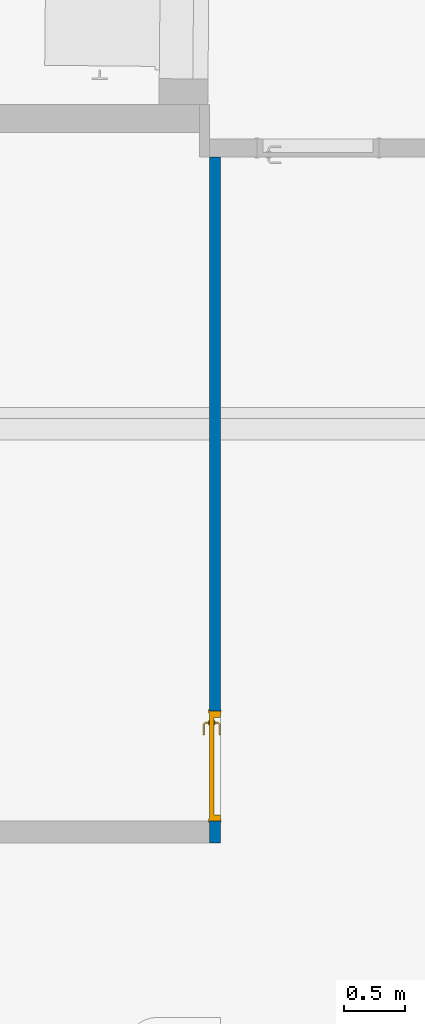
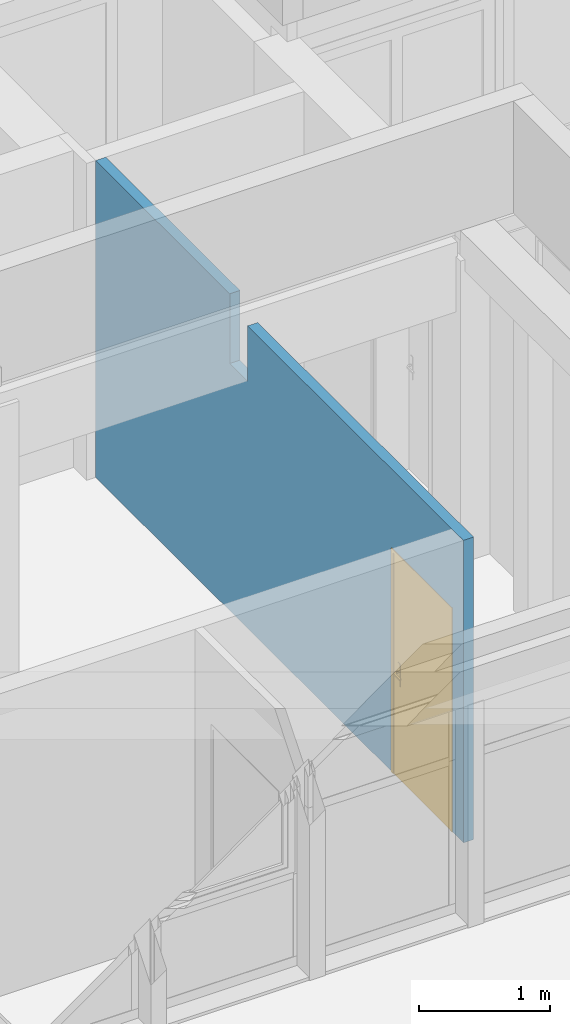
# One storey, part 28 of 49: 1 door, 1 wall, 1 opening.
"""IFC4 building model written with IfcOpenShell, lengths in metres."""

from ifc_helpers import new_model, entity, si_unit, converted_unit, derived_unit, direction, frame, origin, place, context, subcontext, project, spatial, indexed_curve, outline, extrude, polygons, source, transform, mapped, material, material_list, layer, layer_set, constituent, constituent_set, type_object, type_shapes, element, fill, save


model = new_model("IFC4")

# Units and contexts
model_context = context("Model", 3, precision=1e-05, world=origin(), true_north=direction((6.12303176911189e-17, 1.0)))
body_context = subcontext(model_context, "Body", "Model", "MODEL_VIEW")
ifc_project = project(units=[si_unit("LENGTHUNIT", "METRE"), si_unit("AREAUNIT", "SQUARE_METRE"), si_unit("VOLUMEUNIT", "CUBIC_METRE"), converted_unit("PLANEANGLEUNIT", "DEGREE", entity("IfcRatioMeasure", 0.0174532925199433), si_unit("PLANEANGLEUNIT", "RADIAN"), dimensions=[0, 0, 0, 0, 0, 0, 0]), si_unit("MASSUNIT", "GRAM", prefix="KILO"), derived_unit("MASSDENSITYUNIT", [(si_unit("MASSUNIT", "GRAM", prefix="KILO"), 1), (si_unit("LENGTHUNIT", "METRE"), -3)]), derived_unit("MOMENTOFINERTIAUNIT", [(si_unit("LENGTHUNIT", "METRE"), 4)]), si_unit("TIMEUNIT", "SECOND"), si_unit("FREQUENCYUNIT", "HERTZ"), si_unit("THERMODYNAMICTEMPERATUREUNIT", "DEGREE_CELSIUS"), derived_unit("THERMALTRANSMITTANCEUNIT", [(si_unit("MASSUNIT", "GRAM", prefix="KILO"), 1), (si_unit("THERMODYNAMICTEMPERATUREUNIT", "KELVIN"), -1), (si_unit("TIMEUNIT", "SECOND"), -3)]), derived_unit("VOLUMETRICFLOWRATEUNIT", [(si_unit("LENGTHUNIT", "METRE"), 3), (si_unit("TIMEUNIT", "SECOND"), -1)]), si_unit("ELECTRICCURRENTUNIT", "AMPERE"), si_unit("ELECTRICVOLTAGEUNIT", "VOLT"), si_unit("POWERUNIT", "WATT"), si_unit("FORCEUNIT", "NEWTON", prefix="KILO"), si_unit("ILLUMINANCEUNIT", "LUX"), si_unit("LUMINOUSFLUXUNIT", "LUMEN"), si_unit("LUMINOUSINTENSITYUNIT", "CANDELA"), derived_unit("USERDEFINED", [(si_unit("MASSUNIT", "GRAM", prefix="KILO"), -1), (si_unit("LENGTHUNIT", "METRE"), -2), (si_unit("TIMEUNIT", "SECOND"), 3), (si_unit("LUMINOUSFLUXUNIT", "LUMEN"), 1)]), derived_unit("LINEARVELOCITYUNIT", [(si_unit("LENGTHUNIT", "METRE"), 1), (si_unit("TIMEUNIT", "SECOND"), -1)]), si_unit("PRESSUREUNIT", "PASCAL"), derived_unit("USERDEFINED", [(si_unit("LENGTHUNIT", "METRE"), -2), (si_unit("MASSUNIT", "GRAM", prefix="KILO"), 1), (si_unit("TIMEUNIT", "SECOND"), -2)]), derived_unit("LINEARFORCEUNIT", [(si_unit("MASSUNIT", "GRAM", prefix="KILO"), 1), (si_unit("LENGTHUNIT", "METRE"), 1), (si_unit("TIMEUNIT", "SECOND"), -2), (si_unit("LENGTHUNIT", "METRE"), -1)]), derived_unit("PLANARFORCEUNIT", [(si_unit("MASSUNIT", "GRAM", prefix="KILO"), 1), (si_unit("LENGTHUNIT", "METRE"), 1), (si_unit("TIMEUNIT", "SECOND"), -2), (si_unit("LENGTHUNIT", "METRE"), -2)])], contexts=[model_context])

# Site, building, storey
site_placement = place(None, origin())
site = spatial("IfcSite", under=ifc_project, at=site_placement, Name="Default", CompositionType="ELEMENT")
building_placement = place(site_placement, origin())
building = spatial("IfcBuilding", under=site, at=building_placement, Name="HOTEL CONSULAIRE BOULOGNE SUR MER", CompositionType="ELEMENT")
storey_placement = place(building_placement, frame((0.0, 0.0, 6.81974152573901)))
storey = spatial("IfcBuildingStorey", under=building, at=storey_placement, Name="Niveau 2", CompositionType="ELEMENT", Elevation=6.81974152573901)

# Wall, opening, door
ifc_material_1 = material(Name="Mur par défaut", Category="Divers")
ifc_layer = layer(ifc_material_1, 0.09, Name="Mur par défaut", Category="Divers")
ifc_layer_set = layer_set([ifc_layer], Name="Mur de base:Générique - Int. 90")
wall_type = type_object("IfcWallType", Name="Mur de base:Générique - Int. 90", PredefinedType="NOTDEFINED", material=ifc_layer_set)
wall_placement = place(storey_placement, frame((9.54595857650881, -18.0248875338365, 0.0), z_axis=(0.0, 0.0, 1.0), x_axis=(0.0, 1.0, 0.0)))
wall = element("IfcWall", 1, at=wall_placement, inside=storey, type_object=wall_type, material=ifc_layer_set, Name="Mur de base:Générique - Int. 90", ObjectType="Mur de base:Générique - Int. 90", PredefinedType="NOTDEFINED", context=body_context, shape_type="Tessellation", body=[
    polygons([(0.180000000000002, -0.0450000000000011, 0.0), (0.0, -0.0450000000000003, 0.0), (0.0, 0.0449999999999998, 0.0), (0.180000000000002, 0.0450000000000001, 0.0), (0.180000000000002, -0.0450000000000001, 2.075), (1.08, -0.0450000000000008, 2.075), (1.08, -0.0450000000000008, 0.0), (5.62311021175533, -0.0450000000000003, 0.0), (5.62311021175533, -0.0450000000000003, 2.957), (3.57180060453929, -0.0450000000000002, 2.957), (3.57180060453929, -0.0450000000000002, 2.307), (3.30180060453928, -0.0450000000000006, 2.307), (3.30180060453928, -0.0450000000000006, 2.822), (0.0, -0.0450000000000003, 2.822), (0.180000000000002, 0.0450000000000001, 2.075), (0.0, 0.0449999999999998, 2.822), (3.30180060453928, 0.0449999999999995, 2.822), (3.30180060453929, 0.0449999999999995, 2.307), (3.57180060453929, 0.0449999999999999, 2.307), (3.57180060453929, 0.0449999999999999, 2.957), (5.62311021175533, 0.0449999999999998, 2.957), (5.62311021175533, 0.0449999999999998, 0.0), (1.08, 0.0449999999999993, 0.0), (1.08, 0.0449999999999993, 2.075)], [[[2, 3, 4, 1]], [[6, 5, 15, 24]], [[23, 22, 8, 7]], [[5, 6, 7, 8, 9, 10, 11, 12, 13, 14, 2, 1]], [[22, 23, 24, 15, 4, 3, 16, 17, 18, 19, 20, 21]], [[10, 9, 21, 20]], [[11, 19, 18, 12]], [[17, 16, 14, 13]], [[8, 22, 21, 9]], [[5, 1, 4, 15]], [[12, 18, 17, 13]], [[16, 3, 2, 14]], [[7, 6, 24, 23]], [[10, 20, 19, 11]]], closed=True),
])
opening_placement = place(wall_placement, frame((0.179999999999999, -0.0449999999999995, 0.0)))
opening = element("IfcOpeningElement", 2, at=opening_placement, cuts=wall, Name="Int. Simple:PP (0.83m x 2.04m):1", ObjectType="Opening", PredefinedType="OPENING", context=body_context, shape_type="SweptSolid", body=[
    extrude(outline(indexed_curve([(0.0, 1.08286712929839e-15), (2.075, 1.08286712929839e-15), (2.075, 0.9), (0.0, 0.9), (0.0, 1.08286712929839e-15)], self_intersect=False)), frame((0.0, 0.0, 0.0), z_axis=(0.0, 1.0, 0.0), x_axis=(0.0, 0.0, 1.0)), (0.0, 0.0, 1.0), 0.09),
])
ifc_material_2 = material(Name="Finition Peinture - Blanc satiné", Category="Peinture")
ifc_constituent_1 = constituent(ifc_material_2, Name="Finition Peinture - Blanc satiné", Category="Matériaux")
ifc_material_3 = material(Name="Bois - Panneau de porte", Category="Bois")
ifc_constituent_2 = constituent(ifc_material_3, Name="Bois - Panneau de porte", Category="Matériaux")
ifc_material_4 = material(Name="Bois - Cadre de porte", Category="Bois")
ifc_constituent_3 = constituent(ifc_material_4, Name="Bois - Cadre de porte", Category="Matériaux")
ifc_constituent_set = constituent_set(constituents=[ifc_constituent_1, ifc_constituent_2, ifc_constituent_3], Name="MaterialConstituentSet")
ifc_material_list = material_list([ifc_material_4, ifc_material_3, ifc_material_4, ifc_material_2])
door_type = type_object("IfcDoorType", Name="Int. Simple:PP (0.83m x 2.04m)", OperationType="NOTDEFINED", PredefinedType="DOOR", material=ifc_material_list)
shared_shape = source(origin(), body_context, "Body", "Tessellation", [
    polygons([(0.0750000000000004, -0.00500000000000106, 0.870000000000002), (0.0846472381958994, -0.00500000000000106, 0.866003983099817), (0.0950000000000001, -0.00500000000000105, 0.86464101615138), (0.105352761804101, -0.00500000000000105, 0.866003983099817), (0.115, -0.00500000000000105, 0.870000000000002), (0.114999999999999, -0.00500000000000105, 1.08), (0.1053527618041, -0.00500000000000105, 1.08399601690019), (0.094999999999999, -0.00500000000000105, 1.08535898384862), (0.0846472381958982, -0.00500000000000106, 1.08399601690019), (0.0749999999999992, -0.00500000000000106, 1.08), (0.0749999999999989, -1.06594733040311e-15, 0.870000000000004), (0.0749999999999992, -1.06594733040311e-15, 1.08), (0.0846472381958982, -1.06594733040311e-15, 1.08399601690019), (0.094999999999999, -1.05748743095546e-15, 1.08535898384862), (0.1053527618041, -1.05748743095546e-15, 1.08399601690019), (0.114999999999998, -1.04902753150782e-15, 1.08), (0.115, -1.04902753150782e-15, 0.870000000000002), (0.105352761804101, -1.05748743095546e-15, 0.866003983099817), (0.0950000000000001, -1.05748743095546e-15, 0.86464101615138), (0.0846472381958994, -1.06594733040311e-15, 0.866003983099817)], [[[4, 5, 6, 7, 8, 9, 10, 1, 2, 3]], [[15, 16, 17, 18, 19, 20, 11, 12, 13, 14]], [[11, 20, 2, 1]], [[2, 20, 19, 3]], [[19, 18, 4, 3]], [[18, 17, 5, 4]], [[6, 5, 17, 16]], [[16, 15, 7, 6]], [[7, 15, 14, 8]], [[14, 13, 9, 8]], [[13, 12, 10, 9]], [[1, 10, 12, 11]]], closed=True),
    polygons([(0.114999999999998, 0.0399999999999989, 1.08), (0.105352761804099, 0.0399999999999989, 1.08399601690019), (0.0949999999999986, 0.0399999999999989, 1.08535898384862), (0.084647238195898, 0.0399999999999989, 1.08399601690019), (0.0749999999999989, 0.0399999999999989, 1.08), (0.0750000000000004, 0.0399999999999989, 0.870000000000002), (0.0846472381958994, 0.0399999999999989, 0.866003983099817), (0.0950000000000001, 0.0399999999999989, 0.86464101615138), (0.105352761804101, 0.0399999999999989, 0.866003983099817), (0.115, 0.0399999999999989, 0.870000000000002), (0.114999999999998, 0.0449999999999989, 1.08), (0.115, 0.0449999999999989, 0.870000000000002), (0.105352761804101, 0.0449999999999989, 0.866003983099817), (0.0950000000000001, 0.0449999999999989, 0.86464101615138), (0.0846472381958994, 0.0449999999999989, 0.866003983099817), (0.0749999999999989, 0.0449999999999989, 0.870000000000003), (0.0749999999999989, 0.0449999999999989, 1.08), (0.084647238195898, 0.0449999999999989, 1.08399601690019), (0.0949999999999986, 0.0449999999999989, 1.08535898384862), (0.105352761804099, 0.0449999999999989, 1.08399601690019)], [[[9, 10, 1, 2, 3, 4, 5, 6, 7, 8]], [[20, 11, 12, 13, 14, 15, 16, 17, 18, 19]], [[11, 20, 2, 1]], [[2, 20, 19, 3]], [[19, 18, 4, 3]], [[18, 17, 5, 4]], [[6, 5, 17, 16]], [[16, 15, 7, 6]], [[7, 15, 14, 8]], [[14, 13, 9, 8]], [[13, 12, 10, 9]], [[1, 10, 12, 11]]], closed=True),
    polygons([(0.0889999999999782, -0.00500000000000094, 1.007), (0.0929747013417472, -0.00500000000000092, 1.00778044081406), (0.0970252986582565, -0.0050000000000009, 1.00778044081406), (0.101000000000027, -0.00500000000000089, 1.00699999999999), (0.101000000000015, -0.00500000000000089, 0.993000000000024), (0.0970252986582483, -0.0050000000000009, 0.992219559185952), (0.0929747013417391, -0.00500000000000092, 0.99221955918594), (0.0889999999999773, -0.00500000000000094, 0.992999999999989), (0.0889999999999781, -0.0326509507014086, 1.007), (0.092974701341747, -0.0310045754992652, 1.00778044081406), (0.0970252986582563, -0.0293267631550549, 1.00778044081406), (0.101000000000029, -0.0276803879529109, 1.007), (0.101000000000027, -0.0276803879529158, 0.993000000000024), (0.0970252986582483, -0.0293267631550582, 0.992219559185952), (0.0929747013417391, -0.0310045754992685, 0.99221955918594), (0.0889999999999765, -0.0326509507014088, 0.992999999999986), (0.107377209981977, -0.0510281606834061, 1.007), (0.10902358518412, -0.0470534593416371, 1.00778044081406), (0.110701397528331, -0.0430028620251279, 1.00778044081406), (0.112347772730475, -0.0390281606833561, 1.007), (0.112347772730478, -0.0390281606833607, 0.993000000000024), (0.110701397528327, -0.0430028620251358, 0.992219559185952), (0.109023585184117, -0.047053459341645, 0.99221955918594), (0.107377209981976, -0.0510281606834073, 0.992999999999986), (0.195018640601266, -0.0510281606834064, 1.00699999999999), (0.195018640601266, -0.0510281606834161, 0.992999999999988), (0.195018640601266, -0.0470534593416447, 0.99221955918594), (0.195018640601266, -0.0430028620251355, 0.992219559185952), (0.195018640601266, -0.039028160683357, 0.993000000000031), (0.195018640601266, -0.0390281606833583, 1.007), (0.195018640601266, -0.0430028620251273, 1.00778044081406), (0.195018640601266, -0.0470534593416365, 1.00778044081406), (0.147307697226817, -0.0510281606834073, 1.007), (0.152860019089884, -0.045028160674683, 1.0078786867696), (0.15368320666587, -0.039028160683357, 1.007), (0.147307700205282, -0.0510281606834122, 0.992999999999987), (0.152860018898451, -0.0450281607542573, 0.992121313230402), (0.153683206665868, -0.039028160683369, 0.993000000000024)], [[[2, 3, 4, 5, 6, 7, 8, 1]], [[21, 20, 35, 30, 29, 38]], [[9, 10, 2, 1]], [[10, 18, 19, 11, 3, 2]], [[11, 12, 4, 3]], [[5, 4, 12, 13]], [[26, 27, 28, 29, 30, 31, 32, 25]], [[13, 14, 6, 5]], [[14, 22, 23, 15, 7, 6]], [[15, 16, 8, 7]], [[1, 8, 16, 9]], [[17, 18, 10, 9]], [[19, 20, 12, 11]], [[13, 12, 20, 21]], [[21, 22, 14, 13]], [[23, 24, 16, 15]], [[9, 16, 24, 17]], [[33, 32, 34]], [[25, 32, 33]], [[18, 17, 33]], [[34, 35, 19]], [[20, 19, 35]], [[35, 31, 30]], [[32, 31, 34]], [[31, 35, 34]], [[18, 33, 34]], [[18, 34, 19]], [[38, 28, 37]], [[36, 37, 27]], [[21, 38, 22]], [[38, 29, 28]], [[26, 36, 27]], [[24, 23, 36]], [[36, 23, 37]], [[23, 22, 37]], [[22, 38, 37]], [[27, 37, 28]], [[17, 24, 36, 26, 25, 33]]], closed=True),
    polygons([(0.10100000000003, 0.0449999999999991, 0.993000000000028), (0.101000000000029, 0.0449999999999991, 1.007), (0.0970252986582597, 0.0449999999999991, 1.00778044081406), (0.0929747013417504, 0.0449999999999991, 1.00778044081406), (0.0889999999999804, 0.044999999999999, 1.007), (0.0889999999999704, 0.044999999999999, 0.992999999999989), (0.0929747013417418, 0.0449999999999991, 0.99221955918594), (0.0970252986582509, 0.0449999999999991, 0.992219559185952), (0.10100000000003, 0.067485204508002, 0.993000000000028), (0.10100000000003, 0.0674852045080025, 1.007), (0.0970252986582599, 0.0691315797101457, 1.00778044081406), (0.0929747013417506, 0.070809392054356, 1.00778044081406), (0.0889999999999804, 0.0724557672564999, 1.007), (0.0889999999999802, 0.072455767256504, 0.992999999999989), (0.0929747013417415, 0.0708093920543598, 0.99221955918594), (0.0970252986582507, 0.0691315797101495, 0.992219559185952), (0.112485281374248, 0.0789704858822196, 0.993000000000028), (0.112485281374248, 0.0789704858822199, 1.007), (0.110838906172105, 0.0829451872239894, 1.00778044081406), (0.109161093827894, 0.0869957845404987, 1.00778044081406), (0.107514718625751, 0.0909704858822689, 1.007), (0.107514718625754, 0.090970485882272, 0.992999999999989), (0.109161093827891, 0.0869957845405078, 0.99221955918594), (0.110838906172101, 0.0829451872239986, 0.992219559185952), (0.195045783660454, 0.0789704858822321, 0.993000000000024), (0.195045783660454, 0.0829451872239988, 0.992219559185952), (0.195045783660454, 0.086995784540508, 0.99221955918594), (0.195045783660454, 0.0909704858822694, 0.992999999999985), (0.195045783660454, 0.0909704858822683, 1.007), (0.195045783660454, 0.0869957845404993, 1.00778044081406), (0.195045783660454, 0.0829451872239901, 1.00778044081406), (0.195045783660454, 0.0789704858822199, 1.007), (0.147445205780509, 0.0909704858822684, 1.007), (0.152942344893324, 0.0849704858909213, 1.0078786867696), (0.153765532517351, 0.0789704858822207, 1.007), (0.147445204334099, 0.0909704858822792, 0.992999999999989), (0.152942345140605, 0.0849704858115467, 0.992121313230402), (0.153765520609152, 0.0789704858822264, 0.993000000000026)], [[[4, 5, 6, 7, 8, 1, 2, 3]], [[18, 17, 38, 25, 32, 35]], [[2, 1, 9, 10]], [[25, 26, 27, 28, 29, 30, 31, 32]], [[10, 11, 3, 2]], [[11, 19, 20, 12, 4, 3]], [[12, 13, 5, 4]], [[6, 5, 13, 14]], [[14, 15, 7, 6]], [[15, 23, 24, 16, 8, 7]], [[16, 9, 1, 8]], [[10, 9, 17, 18]], [[18, 19, 11, 10]], [[20, 21, 13, 12]], [[14, 13, 21, 22]], [[22, 23, 15, 14]], [[24, 17, 9, 16]], [[35, 31, 34]], [[33, 34, 30]], [[18, 35, 19]], [[35, 32, 31]], [[29, 33, 30]], [[21, 20, 33]], [[33, 20, 34]], [[20, 19, 34]], [[19, 35, 34]], [[30, 34, 31]], [[21, 33, 29, 28, 36, 22]], [[36, 27, 37]], [[28, 27, 36]], [[23, 22, 36]], [[37, 38, 24]], [[17, 24, 38]], [[38, 26, 25]], [[27, 26, 37]], [[26, 38, 37]], [[23, 36, 37]], [[23, 37, 24]]], closed=True),
    polygons([(0.034999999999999, 0.04, 2.04), (0.865, 0.04, 2.04), (0.864999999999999, 0.04, 0.0), (0.034999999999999, 0.04, 0.0), (0.034999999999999, 3.38395977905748e-17, 2.04), (0.034999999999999, 3.38395977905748e-17, 0.0), (0.864999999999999, 3.38395977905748e-17, 0.0), (0.865, 3.38395977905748e-17, 2.04)], [[[4, 1, 2, 3]], [[7, 8, 5, 6]], [[2, 1, 5, 8]], [[3, 2, 8, 7]], [[4, 3, 7, 6]], [[1, 4, 6, 5]]], closed=True),
    polygons([(-1.54308565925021e-14, 8.45989944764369e-18, 0.0), (-1.54308565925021e-14, 0.090000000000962, 0.0), (0.0499999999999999, 0.090000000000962, 0.0), (0.0499999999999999, 0.0400000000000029, 0.0), (0.0349999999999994, 0.0400000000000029, 0.0), (0.0349999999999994, 8.45989944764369e-18, 0.0), (-1.53631773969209e-14, 8.45989944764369e-18, 2.07500000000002), (-1.53631773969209e-14, 0.090000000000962, 2.07500000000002), (0.900000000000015, 0.090000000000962, 2.07500000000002), (0.900000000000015, 0.090000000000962, 9.23443718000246e-25), (0.85, 0.090000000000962, 6.02669015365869e-24), (0.85, 0.090000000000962, 2.025), (0.05, 0.090000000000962, 2.025), (0.05, 0.0400000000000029, 2.025), (0.85, 0.0400000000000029, 2.025), (0.85, 0.0400000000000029, 1.99209609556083e-25), (0.865, 0.0400000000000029, 1.51399294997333e-24), (0.865000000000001, 0.0400000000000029, 2.04), (0.0349999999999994, 0.0400000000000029, 2.04), (0.0349999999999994, 8.45989944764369e-18, 2.04), (0.865, 8.45989944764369e-18, 2.04), (0.865, 8.45989944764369e-18, 3.40121094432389e-24), (0.900000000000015, 8.45989944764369e-18, 1.81925185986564e-24), (0.900000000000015, 8.45989944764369e-18, 2.07500000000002)], [[[5, 6, 1, 2, 3, 4]], [[11, 10, 23, 22, 17, 16]], [[14, 13, 12, 15]], [[20, 19, 18, 21]], [[2, 1, 7, 8]], [[15, 12, 11, 16]], [[21, 18, 17, 22]], [[3, 2, 8, 9, 10, 11, 12, 13]], [[4, 3, 13, 14]], [[6, 5, 19, 20]], [[9, 24, 23, 10]], [[16, 17, 18, 19, 5, 4, 14, 15]], [[22, 23, 24, 7, 1, 6, 20, 21]], [[8, 7, 24, 9]]], closed=True),
    polygons([(0.0149999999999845, 0.090000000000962, 1.35358391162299e-16), (-0.0150000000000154, 0.090000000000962, 1.35358391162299e-16), (-0.0150000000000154, 0.095000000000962, 1.35358391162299e-16), (0.0149999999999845, 0.095000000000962, 1.35358391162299e-16), (0.0149999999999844, 0.090000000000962, 2.06000000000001), (0.884999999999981, 0.090000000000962, 2.06000000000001), (0.88499999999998, 0.090000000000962, 5.09144897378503e-24), (0.91499999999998, 0.090000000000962, -5.44393448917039e-24), (0.91499999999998, 0.090000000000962, 2.09000000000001), (-0.0150000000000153, 0.090000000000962, 2.09000000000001), (-0.0150000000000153, 0.095000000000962, 2.09000000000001), (0.91499999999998, 0.095000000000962, 2.09000000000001), (0.91499999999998, 0.095000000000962, 5.03766794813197e-24), (0.88499999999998, 0.095000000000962, -1.89153776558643e-24), (0.88499999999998, 0.095000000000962, 2.06000000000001), (0.0149999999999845, 0.095000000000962, 2.06000000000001)], [[[1, 2, 3, 4]], [[14, 13, 8, 7]], [[5, 16, 15, 6]], [[7, 8, 9, 10, 2, 1, 5, 6]], [[3, 2, 10, 11]], [[6, 15, 14, 7]], [[4, 3, 11, 12, 13, 14, 15, 16]], [[1, 4, 16, 5]], [[12, 9, 8, 13]], [[11, 10, 9, 12]]], closed=True),
    polygons([(0.0149999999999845, -0.00500000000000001, 1.35358391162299e-16), (-0.0150000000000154, -0.00500000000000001, 1.35358391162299e-16), (-0.0150000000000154, 8.45989944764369e-18, 1.35358391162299e-16), (0.0149999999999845, 8.45989944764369e-18, 1.35358391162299e-16), (0.88499999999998, -0.00500000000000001, -1.35358391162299e-16), (0.88499999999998, 8.45989944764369e-18, -1.35358391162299e-16), (0.91499999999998, 8.45989944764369e-18, -1.35358391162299e-16), (0.91499999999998, -0.00500000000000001, -1.35358391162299e-16), (0.0149999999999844, -0.00500000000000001, 2.06000000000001), (0.884999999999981, -0.00500000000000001, 2.06000000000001), (0.91499999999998, -0.00500000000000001, 2.09000000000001), (-0.0150000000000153, -0.00500000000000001, 2.09000000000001), (-0.0150000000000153, 8.45989944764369e-18, 2.09000000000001), (0.91499999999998, 8.45989944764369e-18, 2.09000000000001), (0.88499999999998, 8.45989944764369e-18, 2.06000000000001), (0.0149999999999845, 8.45989944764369e-18, 2.06000000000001)], [[[1, 2, 3, 4]], [[6, 7, 8, 5]], [[9, 16, 15, 10]], [[5, 8, 11, 12, 2, 1, 9, 10]], [[3, 2, 12, 13]], [[10, 15, 6, 5]], [[4, 3, 13, 14, 7, 6, 15, 16]], [[1, 4, 16, 9]], [[14, 11, 8, 7]], [[13, 12, 11, 14]]], closed=True),
])
type_shapes(door_type, [shared_shape])
door_placement = place(opening_placement, frame((0.900000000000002, 0.0899999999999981, 0.0), z_axis=(0.0, 0.0, 1.0), x_axis=(-1.0, 0.0, 0.0)))
door = element("IfcDoor", 3, at=door_placement, inside=storey, type_object=door_type, material=ifc_constituent_set, Name="Int. Simple:PP (0.83m x 2.04m)", ObjectType="Int. Simple:PP (0.83m x 2.04m)", OperationType="NOTDEFINED", OverallHeight=2.075, OverallWidth=0.899999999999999, PredefinedType="DOOR", context=body_context, shape_type="MappedRepresentation", body=[
    mapped(shared_shape, transform((0.0, 0.0, 0.0), scale=1.0)),
])
fill(opening, door)

save(model, "model.ifc")
